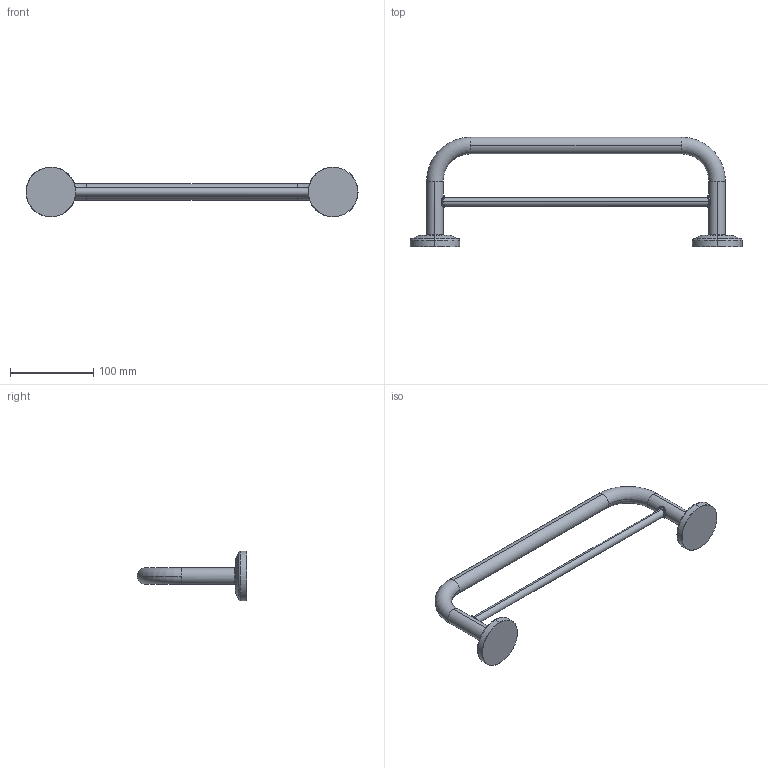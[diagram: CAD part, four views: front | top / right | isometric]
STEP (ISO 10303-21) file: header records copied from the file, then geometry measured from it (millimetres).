
FILE_DESCRIPTION(('THIS FILE CONTAINS SOME STEP INSTANCES'),'1');
FILE_NAME('sta_035.stp','2015-12-07T10:10:06',('UNDEFINED'),('UNDEFINED'),'T-FLEX CAD STEP converter','T-FLEX CAD','');
FILE_SCHEMA(('CONFIG_CONTROL_DESIGN'));
Length unit declared in the file: metre
Products named in the file (1): 3D 鐨飹懤艜_21
Bounding box: 400 x 132 x 60 mm (x, y, z)
Volume: 258153.3 mm3; surface area: 56857.4 mm2
Topology: 1 solids, 1 shells, 64 faces, 156 edges, 96 vertices
Faces by surface type: cylinder 20, bspline 16, cone 12, torus 12, plane 4
Entity records: 6068 total; most frequent: CARTESIAN_POINT 4879, ORIENTED_EDGE 312, EDGE_CURVE 156, DIRECTION 148, VERTEX_POINT 96, EDGE_LOOP 68, ADVANCED_FACE 64, FACE_OUTER_BOUND 64
